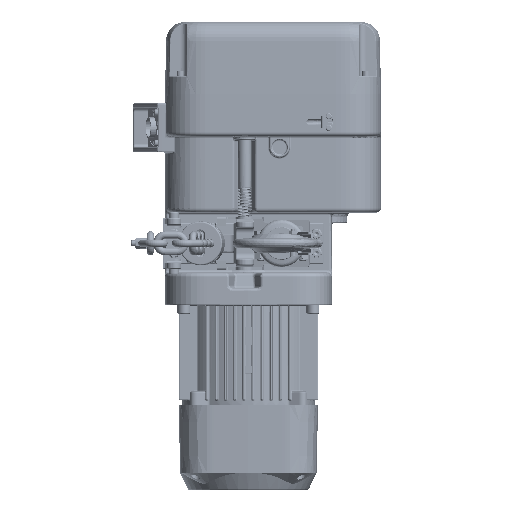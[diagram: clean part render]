
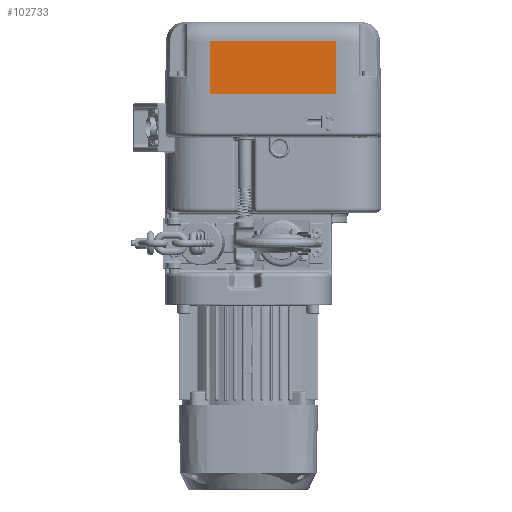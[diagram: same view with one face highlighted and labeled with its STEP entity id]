
A CAD part, front view. The second image highlights one B-rep face of the part: STEP entity #102733.
In plain terms, the highlighted planar face has unit normal (0, -1, 0.018).
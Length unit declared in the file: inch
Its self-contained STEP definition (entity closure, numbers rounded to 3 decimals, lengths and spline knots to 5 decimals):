
#6802 = LINE ( 'NONE', #77292, #88587 ) ;
#10743 = EDGE_CURVE ( 'NONE', #168030, #141045, #43737, .T. ) ;
#26883 = DIRECTION ( 'NONE',  ( 0., -1., 0.017 ) ) ;
#33152 = ORIENTED_EDGE ( 'NONE', *, *, #157465, .T. ) ;
#36611 = CARTESIAN_POINT ( 'NONE',  ( 0., -4.74409, 0. ) ) ;
#38898 = ORIENTED_EDGE ( 'NONE', *, *, #85959, .F. ) ;
#43737 = LINE ( 'NONE', #102600, #74815 ) ;
#46608 = DIRECTION ( 'NONE',  ( -1., 0., 0. ) ) ;
#46813 = EDGE_CURVE ( 'NONE', #160580, #188011, #186078, .T. ) ;
#50304 = CARTESIAN_POINT ( 'NONE',  ( 3.4341, -4.74409, 0. ) ) ;
#57888 = EDGE_LOOP ( 'NONE', ( #38898, #126919, #33152, #132018 ) ) ;
#64784 = LINE ( 'NONE', #50304, #83623 ) ;
#72236 = DIRECTION ( 'NONE',  ( 0., -0.017, -1. ) ) ;
#74815 = VECTOR ( 'NONE', #46608, 39.37008 ) ;
#77292 = CARTESIAN_POINT ( 'NONE',  ( -3.4341, -4.74409, 0. ) ) ;
#82935 = FACE_OUTER_BOUND ( 'NONE', #57888, .T. ) ;
#83623 = VECTOR ( 'NONE', #96625, 39.37008 ) ;
#83821 = DIRECTION ( 'NONE',  ( -1., 0., 0. ) ) ;
#85959 = EDGE_CURVE ( 'NONE', #168030, #160580, #64784, .T. ) ;
#88587 = VECTOR ( 'NONE', #167879, 39.37008 ) ;
#96625 = DIRECTION ( 'NONE',  ( 0., -0.017, -1. ) ) ;
#102600 = CARTESIAN_POINT ( 'NONE',  ( 0., -4.69293, 2.93125 ) ) ;
#102733 = ADVANCED_FACE ( 'NONE', ( #82935 ), #115624, .T. ) ;
#102856 = CARTESIAN_POINT ( 'NONE',  ( 3.4341, -4.74409, 0. ) ) ;
#114346 = CARTESIAN_POINT ( 'NONE',  ( -3.4341, -4.69293, 2.93125 ) ) ;
#115624 = PLANE ( 'NONE',  #156093 ) ;
#126919 = ORIENTED_EDGE ( 'NONE', *, *, #10743, .T. ) ;
#132018 = ORIENTED_EDGE ( 'NONE', *, *, #46813, .F. ) ;
#141045 = VERTEX_POINT ( 'NONE', #114346 ) ;
#148664 = CARTESIAN_POINT ( 'NONE',  ( -3.4341, -4.74409, 0. ) ) ;
#156093 = AXIS2_PLACEMENT_3D ( 'NONE', #159966, #26883, #72236 ) ;
#157465 = EDGE_CURVE ( 'NONE', #141045, #188011, #6802, .T. ) ;
#159966 = CARTESIAN_POINT ( 'NONE',  ( 0., -4.74409, 0. ) ) ;
#160580 = VERTEX_POINT ( 'NONE', #102856 ) ;
#167879 = DIRECTION ( 'NONE',  ( 0., -0.017, -1. ) ) ;
#168030 = VERTEX_POINT ( 'NONE', #179750 ) ;
#173307 = VECTOR ( 'NONE', #83821, 39.37008 ) ;
#179750 = CARTESIAN_POINT ( 'NONE',  ( 3.4341, -4.69293, 2.93125 ) ) ;
#186078 = LINE ( 'NONE', #36611, #173307 ) ;
#188011 = VERTEX_POINT ( 'NONE', #148664 ) ;
